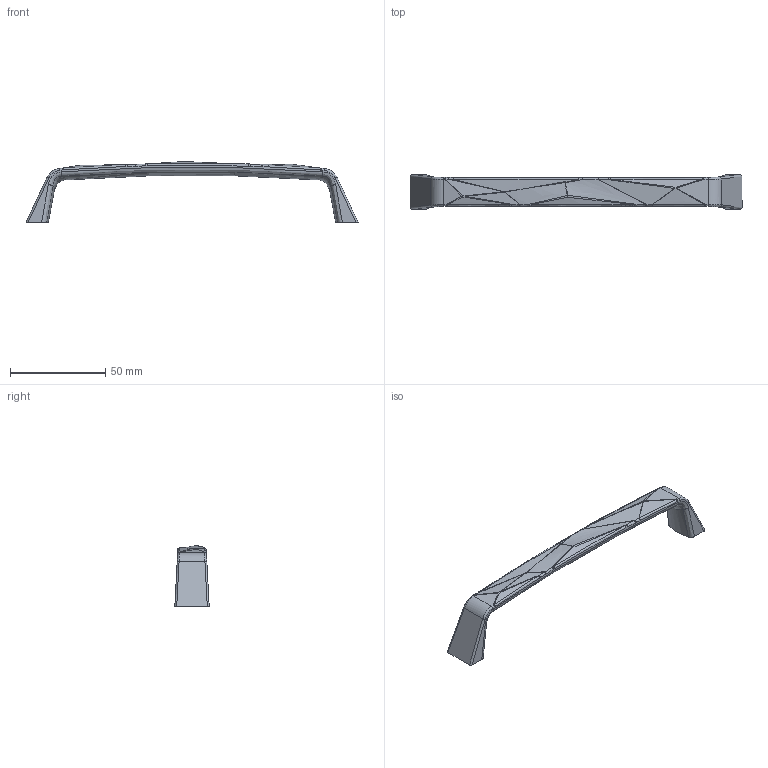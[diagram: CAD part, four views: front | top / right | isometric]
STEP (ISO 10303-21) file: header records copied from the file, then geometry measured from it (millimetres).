
FILE_DESCRIPTION (( 'STEP AP203' ), '1' );
FILE_NAME ('526660160 DIAMOND.step', '2016-04-05T14:30:42', ( 'elvis' ), ( '' ), 'SwSTEP 2.0', 'SolidWorks 2016', '' );
FILE_SCHEMA (( 'CONFIG_CONTROL_DESIGN' ));
Length unit declared in the file: millimetre
Products named in the file (1): 526660160 DIAMOND
Bounding box: 174 x 18 x 31.93 mm (x, y, z)
Volume: 17951.9 mm3; surface area: 8262.6 mm2
Topology: 1 solids, 1 shells, 111 faces, 272 edges, 161 vertices
Faces by surface type: bspline 73, cylinder 17, plane 9, sphere 6, cone 4, torus 2
Entity records: 7012 total; most frequent: CARTESIAN_POINT 4933, ORIENTED_EDGE 536, EDGE_CURVE 268, DIRECTION 244, VERTEX_POINT 161, B_SPLINE_CURVE_WITH_KNOTS 152, EDGE_LOOP 113, ADVANCED_FACE 111
